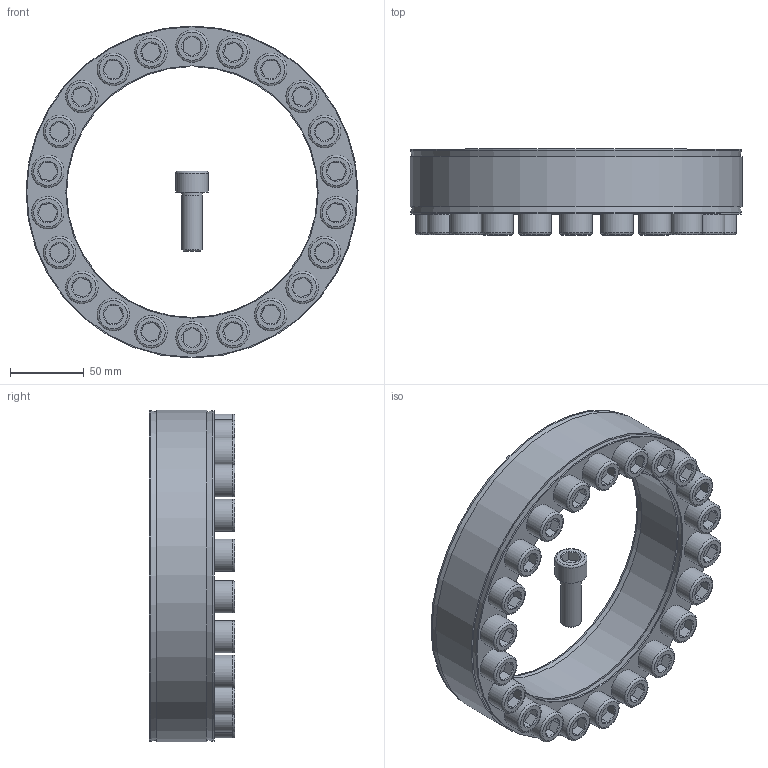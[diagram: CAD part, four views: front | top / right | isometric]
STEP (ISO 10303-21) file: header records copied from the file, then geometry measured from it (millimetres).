
FILE_DESCRIPTION( ( 'Unknown' ), '1' );
FILE_NAME( 'C:/Dokumente und Einstellungen/Sven/Desktop/homepage/cad - homepage/KBS40/KBS 40 - 170 x 225.stp', 'Unknown', ( 'Unknown' ), ( 'Unknown' ), 'XStep 1.0', 'Unknown', ' ' );
FILE_SCHEMA( ( 'automotive_design' ) );
Length unit declared in the file: millimetre
Products named in the file (24): Assem1; KBS 40 170x225; ISO 4762 M14x40; ISO 4762 M14x40-oa0; ISO 4762 M14x40-oa1; ISO 4762 M14x40-oa2; ISO 4762 M14x40-oa3; ISO 4762 M14x40-oa4; ISO 4762 M14x40-oa5; ISO 4762 M14x40-oa6; ISO 4762 M14x40-oa7; ISO 4762 M14x40-oa8; ISO 4762 M14x40-oa9; ISO 4762 M14x40-oa10; ISO 4762 M14x40-oa11; ISO 4762 M14x40-oa12; ISO 4762 M14x40-oa13; ISO 4762 M14x40-oa14; ISO 4762 M14x40-oa15; ISO 4762 M14x40-oa16; ISO 4762 M14x40-oa17; ISO 4762 M14x40-oa18; ISO 4762 M14x40-oa19; ISO 4762 M14x40-oa20
Bounding box: 224.99 x 58 x 224.98 mm (x, y, z)
Volume: 1646665.6 mm3; surface area: 419916 mm2
Topology: 46 solids, 46 shells, 1204 faces, 2208 edges, 1272 vertices
Faces by surface type: plane 568, cone 316, cylinder 232, torus 88
Full cylindrical faces by diameter (mm): 12 x44, 14 x132, 22 x44, 171 x4, 224 x4
Entity records: 14905 total; most frequent: CARTESIAN_POINT 3366, DIRECTION 2432, ORIENTED_EDGE 1748, AXIS2_PLACEMENT_3D 1064, EDGE_LOOP 920, EDGE_CURVE 874, FACE_OUTER_BOUND 760, ADVANCED_FACE 602
